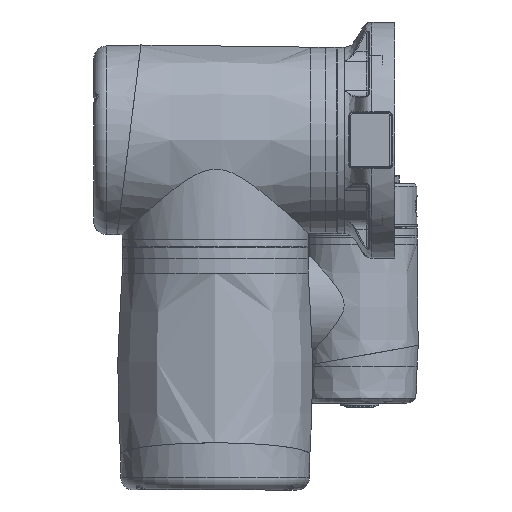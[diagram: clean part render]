
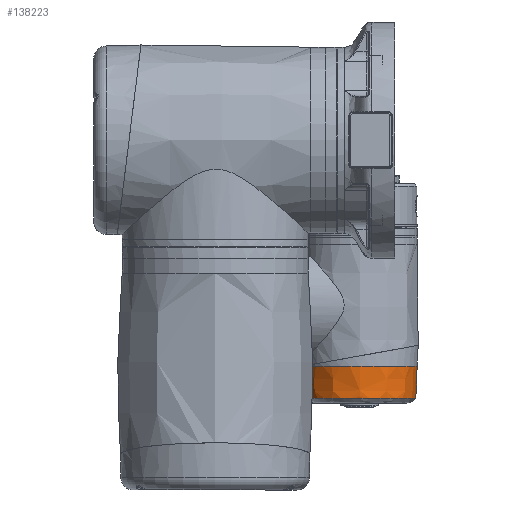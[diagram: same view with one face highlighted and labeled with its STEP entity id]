
A CAD part, left-side view. The second image highlights one B-rep face of the part: STEP entity #138223.
In plain terms, the highlighted free-form (B-spline) face has degree [3, 3] with [4, 7] control points.
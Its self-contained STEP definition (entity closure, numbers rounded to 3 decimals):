
#7177 = EDGE_CURVE ( 'NONE', #109522, #109522, #114847, .T. ) ;
#9850 = CARTESIAN_POINT ( 'NONE',  ( 138.1, 44.3, -88.6 ) ) ;
#21290 = CARTESIAN_POINT ( 'NONE',  ( 136.471, 45.241, 90.481 ) ) ;
#21770 = CARTESIAN_POINT ( 'NONE',  ( 138.1, 44.3, 88.6 ) ) ;
#24198 = ORIENTED_EDGE ( 'NONE', *, *, #7177, .T. ) ;
#25536 = FACE_OUTER_BOUND ( 'NONE', #31195, .T. ) ;
#31195 = EDGE_LOOP ( 'NONE', ( #24198 ) ) ;
#31270 = CARTESIAN_POINT ( 'NONE',  ( 136.471, -45.241, 90.481 ) ) ;
#32182 = CARTESIAN_POINT ( 'NONE',  ( 112.699, -45.551, -91.102 ) ) ;
#32641 = CARTESIAN_POINT ( 'NONE',  ( 138.1, -44.3, 0. ) ) ;
#35143 = DIRECTION ( 'NONE',  ( -1., 0., 0. ) ) ;
#41594 = EDGE_CURVE ( 'NONE', #68496, #68496, #68874, .T. ) ;
#42661 = CARTESIAN_POINT ( 'NONE',  ( 138.1, -44.3, 88.6 ) ) ;
#43143 = CARTESIAN_POINT ( 'NONE',  ( 112.699, 45.551, 0. ) ) ;
#43630 = CARTESIAN_POINT ( 'NONE',  ( 121.172, -45.28, -90.561 ) ) ;
#50076 = CARTESIAN_POINT ( 'NONE',  ( 138.1, 0., 0. ) ) ;
#52223 = CARTESIAN_POINT ( 'NONE',  ( 112.699, 45.551, 91.102 ) ) ;
#53919 = AXIS2_PLACEMENT_3D ( 'NONE', #50076, #126057, #136939 ) ;
#63147 = CARTESIAN_POINT ( 'NONE',  ( 138.1, -44.3, -88.6 ) ) ;
#63149 = EDGE_LOOP ( 'NONE', ( #88975 ) ) ;
#63621 = CARTESIAN_POINT ( 'NONE',  ( 121.172, -45.28, 0. ) ) ;
#64271 =( BOUNDED_SURFACE ( )  B_SPLINE_SURFACE ( 3, 3, ( 
 ( #32641, #63147, #9850, #119150, #21770, #42661, #64587 ),
 ( #86501, #96486, #96007, #140501, #21290, #31270, #107319 ),
 ( #86974, #43630, #129109, #117730, #97408, #65065, #63621 ),
 ( #140945, #32182, #75983, #43143, #52223, #128189, #130081 ) ),
 .UNSPECIFIED., .F., .T., .F. ) 
 B_SPLINE_SURFACE_WITH_KNOTS ( ( 4, 4 ),
 ( 4, 3, 4 ),
 ( 0., 1. ),
 ( 0., 0.5, 1. ),
 .UNSPECIFIED. ) 
 GEOMETRIC_REPRESENTATION_ITEM ( )  RATIONAL_B_SPLINE_SURFACE ( (
 ( 1., 0.333, 0.333, 1., 0.333, 0.333, 1.),
 ( 1., 0.333, 0.333, 1., 0.333, 0.333, 1.),
 ( 1., 0.333, 0.333, 1., 0.333, 0.333, 1.),
 ( 1., 0.333, 0.333, 1., 0.333, 0.333, 1.) ) ) 
 REPRESENTATION_ITEM ( '' )  SURFACE ( )  );
#64587 = CARTESIAN_POINT ( 'NONE',  ( 138.1, -44.3, 0. ) ) ;
#65065 = CARTESIAN_POINT ( 'NONE',  ( 121.172, -45.28, 90.561 ) ) ;
#66119 = DIRECTION ( 'NONE',  ( 0., 0., -1. ) ) ;
#68496 = VERTEX_POINT ( 'NONE', #120774 ) ;
#68874 = CIRCLE ( 'NONE', #90423, 45.551 ) ;
#75983 = CARTESIAN_POINT ( 'NONE',  ( 112.699, 45.551, -91.102 ) ) ;
#85281 = CARTESIAN_POINT ( 'NONE',  ( 138.1, 0., -44.3 ) ) ;
#86501 = CARTESIAN_POINT ( 'NONE',  ( 136.471, -45.241, 0. ) ) ;
#86974 = CARTESIAN_POINT ( 'NONE',  ( 121.172, -45.28, 0. ) ) ;
#88975 = ORIENTED_EDGE ( 'NONE', *, *, #41594, .F. ) ;
#90423 = AXIS2_PLACEMENT_3D ( 'NONE', #139637, #35143, #66119 ) ;
#96007 = CARTESIAN_POINT ( 'NONE',  ( 136.471, 45.241, -90.481 ) ) ;
#96486 = CARTESIAN_POINT ( 'NONE',  ( 136.471, -45.241, -90.481 ) ) ;
#97408 = CARTESIAN_POINT ( 'NONE',  ( 121.172, 45.28, 90.561 ) ) ;
#107319 = CARTESIAN_POINT ( 'NONE',  ( 136.471, -45.241, 0. ) ) ;
#108892 = FACE_OUTER_BOUND ( 'NONE', #63149, .T. ) ;
#109522 = VERTEX_POINT ( 'NONE', #85281 ) ;
#114847 = CIRCLE ( 'NONE', #53919, 44.3 ) ;
#117730 = CARTESIAN_POINT ( 'NONE',  ( 121.172, 45.28, 0. ) ) ;
#119150 = CARTESIAN_POINT ( 'NONE',  ( 138.1, 44.3, 0. ) ) ;
#120774 = CARTESIAN_POINT ( 'NONE',  ( 112.699, 0., -45.551 ) ) ;
#126057 = DIRECTION ( 'NONE',  ( -1., 0., 0. ) ) ;
#128189 = CARTESIAN_POINT ( 'NONE',  ( 112.699, -45.551, 91.102 ) ) ;
#129109 = CARTESIAN_POINT ( 'NONE',  ( 121.172, 45.28, -90.561 ) ) ;
#130081 = CARTESIAN_POINT ( 'NONE',  ( 112.699, -45.551, 0. ) ) ;
#136939 = DIRECTION ( 'NONE',  ( 0., 0., -1. ) ) ;
#138223 = ADVANCED_FACE ( 'NONE', ( #25536, #108892 ), #64271, .T. ) ;
#139637 = CARTESIAN_POINT ( 'NONE',  ( 112.699, 0., 0. ) ) ;
#140501 = CARTESIAN_POINT ( 'NONE',  ( 136.471, 45.241, 0. ) ) ;
#140945 = CARTESIAN_POINT ( 'NONE',  ( 112.699, -45.551, 0. ) ) ;
